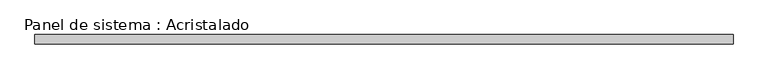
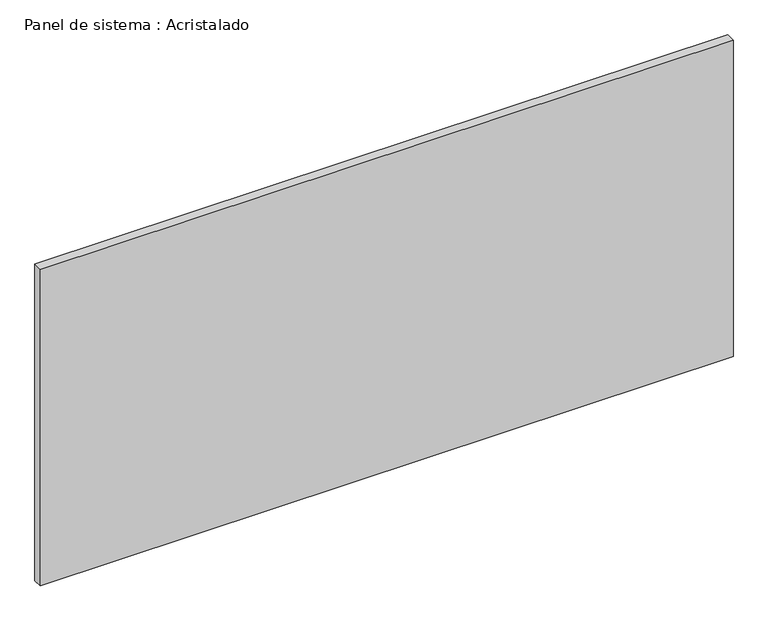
"""IFC4 building model written with IfcOpenShell, lengths in millimetres: plate geometry, Panel de sistema : Acristalado."""

import ifcopenshell
import ifcopenshell.guid

model = None  # the IFC model being written
_history = None  # IfcOwnerHistory: only IFC2X3 demands one
_inside = {}  # id of a spatial element -> (the spatial element, [elements in it])
_under = {}  # id of a project, library or spatial element -> (it, [spatial elements below it])
_declared = {}  # id of a project -> (the project, [libraries it declares])
_typed = {}  # id of a type object -> (the type object, [elements of that type])
_made_of = {}  # id of a material, layer set ... -> (it, [elements and type objects made of it])


def new_model(schema):
    """Start an empty IFC model of exactly this schema.

    Asked for "IFC4X3", IfcOpenShell would pick the latest addendum, in which some entities
    have other attributes; the version numbers below select the first issue.
    IFC2X3 requires an IfcOwnerHistory on every rooted entity: one is made here for all.
    """
    global model, _history
    if schema == "IFC4X3":
        model = ifcopenshell.file(schema_version=(4, 3, 0, 0))
    else:
        model = ifcopenshell.file(schema=schema)
    _inside.clear()
    _under.clear()
    _declared.clear()
    _typed.clear()
    _made_of.clear()
    _history = None
    if model.schema == "IFC2X3":
        org = make("IfcOrganization", Name="unknown")
        user = make(
            "IfcPersonAndOrganization",
            ThePerson=make("IfcPerson", FamilyName="unknown"),
            TheOrganization=org,
        )
        app = make(
            "IfcApplication",
            ApplicationDeveloper=org,
            Version="unknown",
            ApplicationFullName="unknown",
            ApplicationIdentifier="unknown",
        )
        _history = make(
            "IfcOwnerHistory",
            OwningUser=user,
            OwningApplication=app,
            ChangeAction="ADDED",
            CreationDate=0,
        )
    return model


def make(cls, **values):
    """One entity of the class cls with the attributes given. An attribute that is None is left unset."""
    return model.create_entity(
        cls, **{name: value for name, value in values.items() if value is not None}
    )


def rooted(cls, **values):
    """An entity with a GlobalId (a new one), such as an element, a storey or a relation."""
    return make(cls, GlobalId=ifcopenshell.guid.new(), OwnerHistory=_history, **values)


def si_unit(unit_type, name, prefix=None):
    """IfcSIUnit, for example si_unit("LENGTHUNIT", "METRE", prefix="MILLI")."""
    return make("IfcSIUnit", UnitType=unit_type, Prefix=prefix, Name=name)


def assignment(units):
    """IfcUnitAssignment: the units of a project."""
    return None if units is None else make("IfcUnitAssignment", Units=units)


def point(xyz):
    """IfcCartesianPoint."""
    return None if xyz is None else make("IfcCartesianPoint", Coordinates=xyz)


def direction(xyz):
    """IfcDirection."""
    return None if xyz is None else make("IfcDirection", DirectionRatios=xyz)


def frame(location, z_axis=None, x_axis=None):
    """IfcAxis2Placement3D, a coordinate frame: its origin and axes. An axis left out is left unset."""
    return make(
        "IfcAxis2Placement3D",
        Location=point(location),
        Axis=direction(z_axis),
        RefDirection=direction(x_axis),
    )


def origin():
    """The frame at (0, 0, 0) with its axes left unset."""
    return frame((0.0, 0.0, 0.0))


def origin_with_axes():
    """The frame at (0, 0, 0) with the z axis (0, 0, 1) and the x axis (1, 0, 0) written out."""
    return frame((0.0, 0.0, 0.0), z_axis=(0.0, 0.0, 1.0), x_axis=(1.0, 0.0, 0.0))


def place(relative_to, where):
    """IfcLocalPlacement: puts the frame where relative to a parent placement (None: the world)."""
    return make(
        "IfcLocalPlacement", PlacementRelTo=relative_to, RelativePlacement=where
    )


def context(
    kind, dimensions, precision=None, world=None, true_north=None, identifier=None
):
    """IfcGeometricRepresentationContext, for example the 3D "Model" context."""
    return make(
        "IfcGeometricRepresentationContext",
        ContextIdentifier=identifier,
        ContextType=kind,
        CoordinateSpaceDimension=dimensions,
        Precision=precision,
        WorldCoordinateSystem=world,
        TrueNorth=true_north,
    )


def project(units=None, contexts=None):
    """IfcProject with its units and contexts."""
    return rooted(
        "IfcProject",
        Name="project",
        RepresentationContexts=contexts,
        UnitsInContext=assignment(units),
    )


def spatial(cls, under=None, at=None, **own):
    """A site, building, storey or space (cls), placed at a placement, below another one or the project."""
    s = rooted(cls, ObjectPlacement=at, **own)
    if under is not None:
        _under.setdefault(under.id(), (under, []))[1].append(s)
    return s


def polyline(points):
    """IfcPolyline through the points."""
    return make("IfcPolyline", Points=[point(p) for p in points])


def outline(outer, holes=None, kind="AREA"):
    """IfcArbitraryClosedProfileDef: a profile drawn as a closed curve; with holes, ...WithVoids."""
    if holes is None:
        return make("IfcArbitraryClosedProfileDef", ProfileType=kind, OuterCurve=outer)
    return make(
        "IfcArbitraryProfileDefWithVoids",
        ProfileType=kind,
        OuterCurve=outer,
        InnerCurves=holes,
    )


def extrude(swept, where, along, depth):
    """IfcExtrudedAreaSolid: the profile swept, set in the frame where, extruded along a direction by depth."""
    return make(
        "IfcExtrudedAreaSolid",
        SweptArea=swept,
        Position=where,
        ExtrudedDirection=direction(along),
        Depth=depth,
    )


def shape(context_of_items, identifier, shape_type, items):
    """IfcShapeRepresentation: the items that make up one representation, for example the "Body"."""
    return make(
        "IfcShapeRepresentation",
        ContextOfItems=context_of_items,
        RepresentationIdentifier=identifier,
        RepresentationType=shape_type,
        Items=items,
    )


def source(mapping_origin, context_of_items, identifier, shape_type, items):
    """IfcRepresentationMap: a shape defined once, which mapped items show again and again."""
    return make(
        "IfcRepresentationMap",
        MappingOrigin=mapping_origin,
        MappedRepresentation=shape(context_of_items, identifier, shape_type, items),
    )


def transform(
    local_origin,
    x_axis=None,
    y_axis=None,
    z_axis=None,
    scale=None,
    scale2=None,
    scale3=None,
    uniform=True,
):
    """IfcCartesianTransformationOperator3D, or its non-uniform kind. x_axis, y_axis, z_axis: its Axis1, 2, 3."""
    if uniform:
        return make(
            "IfcCartesianTransformationOperator3D",
            Axis1=direction(x_axis),
            Axis2=direction(y_axis),
            LocalOrigin=point(local_origin),
            Scale=scale,
            Axis3=direction(z_axis),
        )
    return make(
        "IfcCartesianTransformationOperator3DnonUniform",
        Axis1=direction(x_axis),
        Axis2=direction(y_axis),
        LocalOrigin=point(local_origin),
        Scale=scale,
        Axis3=direction(z_axis),
        Scale2=scale2,
        Scale3=scale3,
    )


def mapped(mapping_source, mapping_target):
    """IfcMappedItem: shows the shape of a source again, moved by a transform."""
    return make(
        "IfcMappedItem", MappingSource=mapping_source, MappingTarget=mapping_target
    )


def made_of(thing, what):
    """Note that an element or type object is made of a material, layer set ...; save() writes the relation."""
    if what is not None:
        _made_of.setdefault(what.id(), (what, []))[1].append(thing)
    return thing


def element(
    cls,
    number,
    at=None,
    inside=None,
    cuts=None,
    type_object=None,
    material=None,
    context=None,
    identifier="Body",
    shape_type=None,
    held_by="IfcProductDefinitionShape",
    body=None,
    shapes=None,
    **own,
):
    """One element of the class cls, such as IfcWall. Its Tag is "e" and its number.

    at: its placement. inside: the storey or other place that contains it. cuts: it is an
    opening in that element (IfcRelVoidsElement). A single representation is given by context,
    identifier, shape_type and body (its items); several are given by shapes. held_by: the class
    of the entity that holds the representations. save() writes the other relations.
    """
    e = rooted(cls, Tag="e%d" % number, ObjectPlacement=at, **own)
    if body is not None:
        shapes = [shape(context, identifier, shape_type, body)]
    if shapes is not None:
        e.Representation = make(held_by, Representations=shapes)
    if inside is not None:
        _inside.setdefault(inside.id(), (inside, []))[1].append(e)
    if cuts is not None:
        rooted(
            "IfcRelVoidsElement", RelatingBuildingElement=cuts, RelatedOpeningElement=e
        )
    if type_object is not None:
        _typed.setdefault(type_object.id(), (type_object, []))[1].append(e)
    return made_of(e, material)


def aggregate(whole, parts):
    """IfcRelAggregates: a whole, such as a stair, and the parts it consists of."""
    return rooted("IfcRelAggregates", RelatingObject=whole, RelatedObjects=parts)


def save(model, path):
    """Write the relations noted so far, then the file.

    IfcRelAggregates (storeys below a building ...), IfcRelContainedInSpatialStructure (elements
    in a storey), IfcRelDefinesByType, IfcRelAssociatesMaterial and IfcRelDeclares: one each for
    every whole, place, type object, material and project.
    """
    for whole, parts in _under.values():
        aggregate(whole, parts)
    for where, things in _inside.values():
        rooted(
            "IfcRelContainedInSpatialStructure",
            RelatedElements=things,
            RelatingStructure=where,
        )
    for kind, things in _typed.values():
        rooted("IfcRelDefinesByType", RelatedObjects=things, RelatingType=kind)
    for what, things in _made_of.values():
        rooted("IfcRelAssociatesMaterial", RelatedObjects=things, RelatingMaterial=what)
    for by, libraries in _declared.values():
        rooted("IfcRelDeclares", RelatingContext=by, RelatedDefinitions=libraries)
    model.write(path)


def panel_de_sistema_acristalado_f75cf846(model_context):
    return source(origin(), model_context, "Body", "SweptSolid", [
        extrude(outline(polyline([(750.0, -10.0), (-750.0, -10.0), (-750.0, 10.0), (750.0, 10.0), (750.0, -10.0)])), origin_with_axes(), (0.0, 0.0, 1.0), 725.0),
    ])


if __name__ == "__main__":
    model = new_model("IFC4")
    model_context = context("Model", 3, world=origin())
    ifc_project = project(units=[si_unit("LENGTHUNIT", "METRE", prefix="MILLI")], contexts=[model_context])
    site = spatial("IfcSite", under=ifc_project)
    building = spatial("IfcBuilding", under=site)
    placement = place(None, origin())
    panel_de_sistema_acristalado_shape = panel_de_sistema_acristalado_f75cf846(model_context)
    element("IfcPlate", 1, ObjectType="Panel de sistema : Acristalado", at=placement, inside=building, context=model_context, shape_type="MappedRepresentation", body=[
        mapped(panel_de_sistema_acristalado_shape, transform((0.0, 0.0, 0.0), x_axis=(1.0, 0.0, 0.0), y_axis=(0.0, 1.0, 0.0), z_axis=(0.0, 0.0, 1.0))),
    ])
    save(model, "model.ifc")
